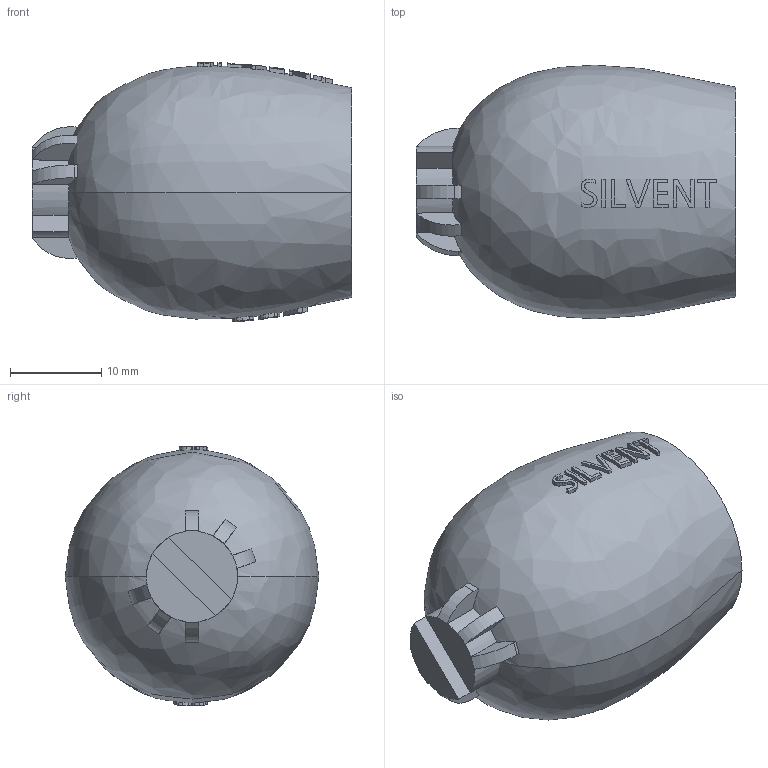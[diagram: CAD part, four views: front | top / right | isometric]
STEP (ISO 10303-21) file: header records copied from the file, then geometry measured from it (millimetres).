
FILE_DESCRIPTION (( 'STEP AP214' ), '1' );
FILE_NAME ('Silvent 804.STEP', '2013-08-27T10:22:45', ( 'silvstan' ), ( '' ), 'SwSTEP 2.0', 'SolidWorks 2011', '' );
FILE_SCHEMA (( 'AUTOMOTIVE_DESIGN' ));
Length unit declared in the file: millimetre
Products named in the file (1): Silvent 804
Bounding box: 35 x 27.83 x 28.48 mm (x, y, z)
Volume: 11626.3 mm3; surface area: 7053.5 mm2
Topology: 2 solids, 2 shells, 231 faces, 626 edges, 415 vertices
Faces by surface type: bspline 104, plane 92, cylinder 25, torus 10
Entity records: 12411 total; most frequent: CARTESIAN_POINT 4807, ORIENTED_EDGE 1252, DIRECTION 690, EDGE_CURVE 626, VERTEX_POINT 415, B_SPLINE_CURVE_WITH_KNOTS 297, EDGE_LOOP 249, AXIS2_PLACEMENT_3D 237
